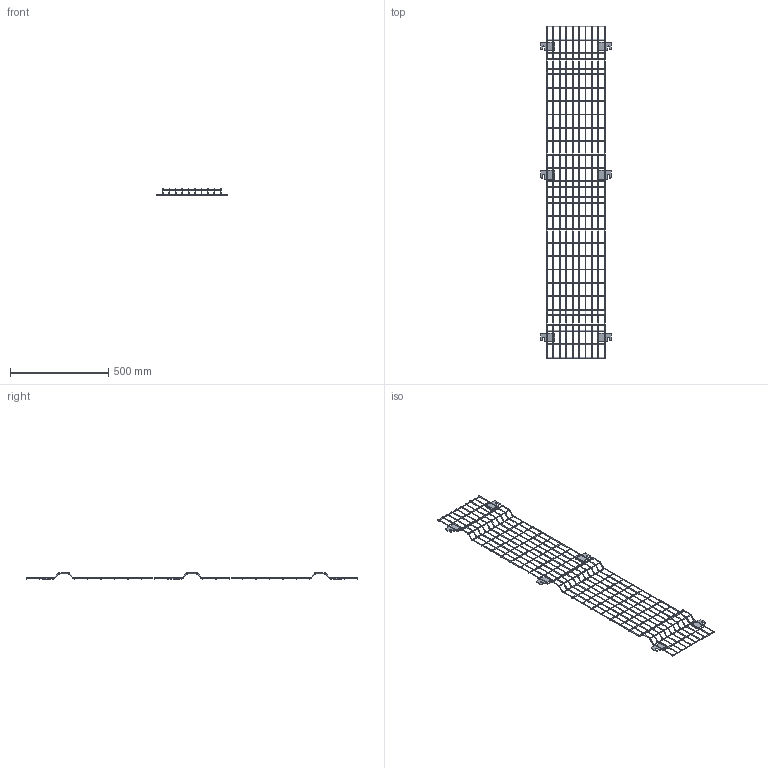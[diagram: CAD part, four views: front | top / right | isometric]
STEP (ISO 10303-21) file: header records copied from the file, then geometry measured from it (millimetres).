
FILE_DESCRIPTION (( 'STEP AP203' ), '1' );
FILE_NAME ('Frameless Panel 300 x 1688.STEP', '2023-09-15T16:49:45', ( '' ), ( '' ), 'SwSTEP 2.0', 'SolidWorks 2023', '' );
FILE_SCHEMA (( 'CONFIG_CONTROL_DESIGN' ));
Length unit declared in the file: millimetre
Products named in the file (1): Frameless Panel 300 x 1688
Bounding box: 356 x 1688 x 32 mm (x, y, z)
Volume: 393313.2 mm3; surface area: 374003.9 mm2
Topology: 46 solids, 46 shells, 736 faces, 1452 edges, 808 vertices
Faces by surface type: cylinder 362, torus 240, plane 134
Entity records: 18807 total; most frequent: DIRECTION 3890, CARTESIAN_POINT 2997, ORIENTED_EDGE 2904, AXIS2_PLACEMENT_3D 1701, EDGE_CURVE 1452, CIRCLE 964, VERTEX_POINT 808, ADVANCED_FACE 736
